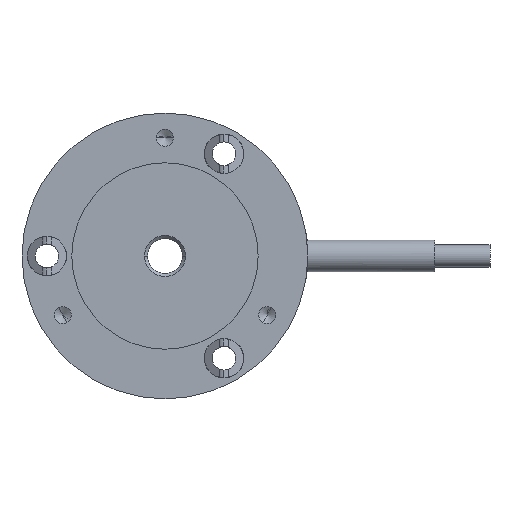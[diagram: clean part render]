
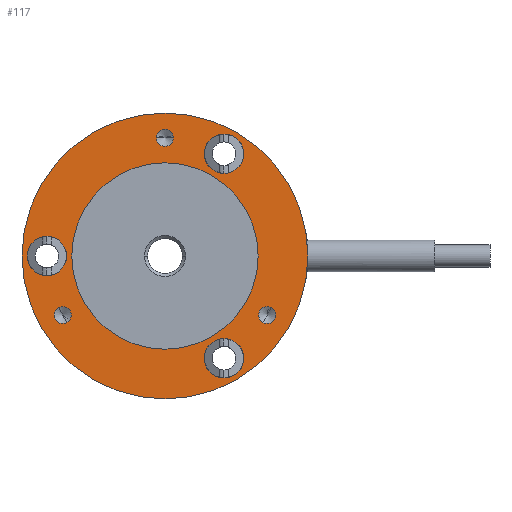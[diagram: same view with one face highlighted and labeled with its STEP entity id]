
A CAD part, front view. The second image highlights one B-rep face of the part: STEP entity #117.
In plain terms, the highlighted planar face has unit normal (0, -1, 0).
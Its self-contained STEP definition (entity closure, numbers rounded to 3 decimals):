
#117=ADVANCED_FACE('',(#251,#252,#253,#254,#255,#256,#257,#258),#259,.T.);
#251=FACE_OUTER_BOUND('',#484,.T.);
#252=FACE_BOUND('',#485,.T.);
#253=FACE_BOUND('',#486,.T.);
#254=FACE_BOUND('',#487,.T.);
#255=FACE_BOUND('',#488,.T.);
#256=FACE_BOUND('',#489,.T.);
#257=FACE_BOUND('',#490,.T.);
#258=FACE_BOUND('',#491,.T.);
#259=PLANE('',#492);
#484=EDGE_LOOP('',(#953,#954));
#485=EDGE_LOOP('',(#955,#956));
#486=EDGE_LOOP('',(#957,#958));
#487=EDGE_LOOP('',(#959,#960));
#488=EDGE_LOOP('',(#961,#962));
#489=EDGE_LOOP('',(#963,#964));
#490=EDGE_LOOP('',(#965,#966));
#491=EDGE_LOOP('',(#967,#968));
#492=AXIS2_PLACEMENT_3D('',#969,#970,#971);
#953=ORIENTED_EDGE('',*,*,#1481,.T.);
#954=ORIENTED_EDGE('',*,*,#1509,.T.);
#955=ORIENTED_EDGE('',*,*,#1510,.T.);
#956=ORIENTED_EDGE('',*,*,#1394,.T.);
#957=ORIENTED_EDGE('',*,*,#1511,.T.);
#958=ORIENTED_EDGE('',*,*,#1400,.T.);
#959=ORIENTED_EDGE('',*,*,#1512,.T.);
#960=ORIENTED_EDGE('',*,*,#1406,.T.);
#961=ORIENTED_EDGE('',*,*,#1513,.T.);
#962=ORIENTED_EDGE('',*,*,#1411,.T.);
#963=ORIENTED_EDGE('',*,*,#1514,.T.);
#964=ORIENTED_EDGE('',*,*,#1425,.T.);
#965=ORIENTED_EDGE('',*,*,#1515,.T.);
#966=ORIENTED_EDGE('',*,*,#1439,.T.);
#967=ORIENTED_EDGE('',*,*,#1486,.F.);
#968=ORIENTED_EDGE('',*,*,#1508,.F.);
#969=CARTESIAN_POINT('',(22.505,0.0,0.0));
#970=DIRECTION('',(0.0,-1.0,0.0));
#971=DIRECTION('',(0.0,0.0,-1.0));
#1394=EDGE_CURVE('',#1666,#1664,#1667,.T.);
#1400=EDGE_CURVE('',#1677,#1675,#1678,.T.);
#1406=EDGE_CURVE('',#1688,#1686,#1689,.T.);
#1411=EDGE_CURVE('',#1692,#1696,#1698,.T.);
#1425=EDGE_CURVE('',#1719,#1723,#1725,.T.);
#1439=EDGE_CURVE('',#1746,#1750,#1752,.T.);
#1481=EDGE_CURVE('',#1829,#1827,#1830,.T.);
#1486=EDGE_CURVE('',#1836,#1839,#1840,.T.);
#1508=EDGE_CURVE('',#1839,#1836,#1872,.T.);
#1509=EDGE_CURVE('',#1827,#1829,#1873,.T.);
#1510=EDGE_CURVE('',#1664,#1666,#1874,.T.);
#1511=EDGE_CURVE('',#1675,#1677,#1875,.T.);
#1512=EDGE_CURVE('',#1686,#1688,#1876,.T.);
#1513=EDGE_CURVE('',#1696,#1692,#1877,.T.);
#1514=EDGE_CURVE('',#1723,#1719,#1878,.T.);
#1515=EDGE_CURVE('',#1750,#1746,#1879,.T.);
#1664=VERTEX_POINT('',#2147);
#1666=VERTEX_POINT('',#2150);
#1667=CIRCLE('',#2151,1.621);
#1675=VERTEX_POINT('',#2162);
#1677=VERTEX_POINT('',#2165);
#1678=CIRCLE('',#2166,1.621);
#1686=VERTEX_POINT('',#2177);
#1688=VERTEX_POINT('',#2180);
#1689=CIRCLE('',#2181,1.621);
#1692=VERTEX_POINT('',#2185);
#1696=VERTEX_POINT('',#2190);
#1698=CIRCLE('',#2193,3.75);
#1719=VERTEX_POINT('',#2223);
#1723=VERTEX_POINT('',#2228);
#1725=CIRCLE('',#2231,3.75);
#1746=VERTEX_POINT('',#2261);
#1750=VERTEX_POINT('',#2266);
#1752=CIRCLE('',#2269,3.75);
#1827=VERTEX_POINT('',#2362);
#1829=VERTEX_POINT('',#2365);
#1830=CIRCLE('',#2366,27.25);
#1836=VERTEX_POINT('',#2391);
#1839=VERTEX_POINT('',#2395);
#1840=CIRCLE('',#2396,17.76);
#1872=CIRCLE('',#2453,17.76);
#1873=CIRCLE('',#2454,27.25);
#1874=CIRCLE('',#2455,1.621);
#1875=CIRCLE('',#2456,1.621);
#1876=CIRCLE('',#2457,1.621);
#1877=CIRCLE('',#2458,3.75);
#1878=CIRCLE('',#2459,3.75);
#1879=CIRCLE('',#2460,3.75);
#2147=CARTESIAN_POINT('',(-20.296,0.0,-9.846));
#2150=CARTESIAN_POINT('',(-18.675,0.0,-12.654));
#2151=AXIS2_PLACEMENT_3D('',#2615,#2616,#2617);
#2162=CARTESIAN_POINT('',(18.675,0.0,-12.654));
#2165=CARTESIAN_POINT('',(20.296,0.0,-9.846));
#2166=AXIS2_PLACEMENT_3D('',#2625,#2626,#2627);
#2177=CARTESIAN_POINT('',(1.621,0.0,22.5));
#2180=CARTESIAN_POINT('',(-1.621,0.0,22.5));
#2181=AXIS2_PLACEMENT_3D('',#2635,#2636,#2637);
#2185=CARTESIAN_POINT('',(-20.625,0.0,-3.248));
#2190=CARTESIAN_POINT('',(-24.375,0.0,3.248));
#2193=AXIS2_PLACEMENT_3D('',#2644,#2645,#2646);
#2223=CARTESIAN_POINT('',(13.125,0.0,-16.238));
#2228=CARTESIAN_POINT('',(9.375,0.0,-22.733));
#2231=AXIS2_PLACEMENT_3D('',#2671,#2672,#2673);
#2261=CARTESIAN_POINT('',(7.5,0.0,19.486));
#2266=CARTESIAN_POINT('',(15.0,0.0,19.486));
#2269=AXIS2_PLACEMENT_3D('',#2698,#2699,#2700);
#2362=CARTESIAN_POINT('',(-27.25,0.0,0.));
#2365=CARTESIAN_POINT('',(27.25,0.0,0.0));
#2366=AXIS2_PLACEMENT_3D('',#2793,#2794,#2795);
#2391=CARTESIAN_POINT('',(17.76,0.0,0.0));
#2395=CARTESIAN_POINT('',(-17.76,0.0,0.));
#2396=AXIS2_PLACEMENT_3D('',#2798,#2799,#2800);
#2453=AXIS2_PLACEMENT_3D('',#2844,#2845,#2846);
#2454=AXIS2_PLACEMENT_3D('',#2847,#2848,#2849);
#2455=AXIS2_PLACEMENT_3D('',#2850,#2851,#2852);
#2456=AXIS2_PLACEMENT_3D('',#2853,#2854,#2855);
#2457=AXIS2_PLACEMENT_3D('',#2856,#2857,#2858);
#2458=AXIS2_PLACEMENT_3D('',#2859,#2860,#2861);
#2459=AXIS2_PLACEMENT_3D('',#2862,#2863,#2864);
#2460=AXIS2_PLACEMENT_3D('',#2865,#2866,#2867);
#2615=CARTESIAN_POINT('',(-19.486,0.0,-11.25));
#2616=DIRECTION('',(0.0,1.0,0.0));
#2617=DIRECTION('',(-0.5,0.0,0.866));
#2625=CARTESIAN_POINT('',(19.486,0.0,-11.25));
#2626=DIRECTION('',(0.0,1.0,0.0));
#2627=DIRECTION('',(-0.5,0.0,-0.866));
#2635=CARTESIAN_POINT('',(0.0,0.0,22.5));
#2636=DIRECTION('',(0.0,1.0,0.0));
#2637=DIRECTION('',(1.0,0.0,0.0));
#2644=CARTESIAN_POINT('',(-22.5,0.0,0.));
#2645=DIRECTION('',(0.0,1.0,0.0));
#2646=DIRECTION('',(0.5,0.0,-0.866));
#2671=CARTESIAN_POINT('',(11.25,0.0,-19.486));
#2672=DIRECTION('',(0.0,1.0,0.0));
#2673=DIRECTION('',(0.5,0.0,0.866));
#2698=CARTESIAN_POINT('',(11.25,0.0,19.486));
#2699=DIRECTION('',(0.0,1.0,0.0));
#2700=DIRECTION('',(-1.0,0.0,0.0));
#2793=CARTESIAN_POINT('',(0.0,0.0,0.0));
#2794=DIRECTION('',(0.0,-1.0,0.0));
#2795=DIRECTION('',(1.0,0.0,0.0));
#2798=CARTESIAN_POINT('',(0.0,0.0,0.0));
#2799=DIRECTION('',(0.0,-1.0,0.0));
#2800=DIRECTION('',(1.0,0.0,0.0));
#2844=CARTESIAN_POINT('',(0.0,0.0,0.0));
#2845=DIRECTION('',(0.0,-1.0,0.0));
#2846=DIRECTION('',(1.0,0.0,0.0));
#2847=CARTESIAN_POINT('',(0.0,0.0,0.0));
#2848=DIRECTION('',(0.0,-1.0,0.0));
#2849=DIRECTION('',(1.0,0.0,0.0));
#2850=CARTESIAN_POINT('',(-19.486,0.0,-11.25));
#2851=DIRECTION('',(0.0,1.0,0.0));
#2852=DIRECTION('',(-0.5,0.0,0.866));
#2853=CARTESIAN_POINT('',(19.486,0.0,-11.25));
#2854=DIRECTION('',(0.0,1.0,0.0));
#2855=DIRECTION('',(-0.5,0.0,-0.866));
#2856=CARTESIAN_POINT('',(0.0,0.0,22.5));
#2857=DIRECTION('',(0.0,1.0,0.0));
#2858=DIRECTION('',(1.0,0.0,0.0));
#2859=CARTESIAN_POINT('',(-22.5,0.0,0.));
#2860=DIRECTION('',(0.0,1.0,0.0));
#2861=DIRECTION('',(0.5,0.0,-0.866));
#2862=CARTESIAN_POINT('',(11.25,0.0,-19.486));
#2863=DIRECTION('',(0.0,1.0,0.0));
#2864=DIRECTION('',(0.5,0.0,0.866));
#2865=CARTESIAN_POINT('',(11.25,0.0,19.486));
#2866=DIRECTION('',(0.0,1.0,0.0));
#2867=DIRECTION('',(-1.0,0.0,0.0));
